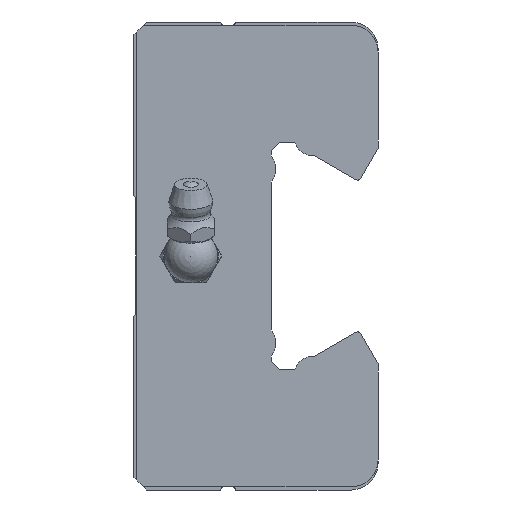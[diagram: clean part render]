
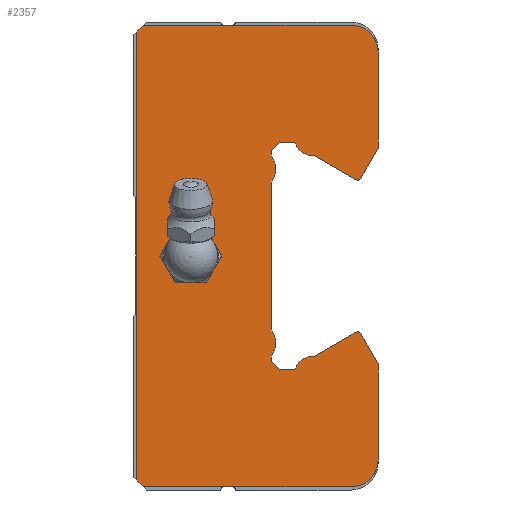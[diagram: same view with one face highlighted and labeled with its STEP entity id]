
A CAD part, left-side view. The second image highlights one B-rep face of the part: STEP entity #2357.
In plain terms, the highlighted planar face has unit normal (-1, 0, 0).
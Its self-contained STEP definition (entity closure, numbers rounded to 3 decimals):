
#120=LINE('',#3752,#326);
#134=LINE('',#3779,#340);
#137=LINE('',#3785,#343);
#143=LINE('',#3811,#349);
#184=LINE('',#3909,#390);
#189=LINE('',#3918,#395);
#191=LINE('',#3923,#397);
#200=LINE('',#3984,#406);
#201=LINE('',#3986,#407);
#202=LINE('',#3990,#408);
#203=LINE('',#3994,#409);
#204=LINE('',#3996,#410);
#205=LINE('',#3998,#411);
#206=LINE('',#4002,#412);
#207=LINE('',#4006,#413);
#208=LINE('',#4008,#414);
#209=LINE('',#4010,#415);
#210=LINE('',#4014,#416);
#326=VECTOR('',#2928,1000.);
#340=VECTOR('',#2948,1000.);
#343=VECTOR('',#2953,1000.);
#349=VECTOR('',#2981,1000.);
#390=VECTOR('',#3072,1000.);
#395=VECTOR('',#3081,1000.);
#397=VECTOR('',#3085,1000.);
#406=VECTOR('',#3164,1000.);
#407=VECTOR('',#3165,1000.);
#408=VECTOR('',#3168,1000.);
#409=VECTOR('',#3171,1000.);
#410=VECTOR('',#3172,1000.);
#411=VECTOR('',#3173,1000.);
#412=VECTOR('',#3176,1000.);
#413=VECTOR('',#3179,1000.);
#414=VECTOR('',#3180,1000.);
#415=VECTOR('',#3181,1000.);
#416=VECTOR('',#3184,1000.);
#509=PLANE('',#2596);
#609=CIRCLE('',#2527,4.);
#613=CIRCLE('',#2533,4.);
#638=CIRCLE('',#2597,3.);
#639=CIRCLE('',#2598,0.5);
#640=CIRCLE('',#2599,2.889);
#641=CIRCLE('',#2600,2.89);
#642=CIRCLE('',#2601,2.89);
#643=CIRCLE('',#2602,2.889);
#644=CIRCLE('',#2603,0.5);
#1094=ORIENTED_EDGE('',*,*,#1557,.T.);
#1095=ORIENTED_EDGE('',*,*,#1558,.T.);
#1096=ORIENTED_EDGE('',*,*,#1534,.F.);
#1097=ORIENTED_EDGE('',*,*,#1466,.F.);
#1098=ORIENTED_EDGE('',*,*,#1462,.F.);
#1099=ORIENTED_EDGE('',*,*,#1459,.F.);
#1100=ORIENTED_EDGE('',*,*,#1529,.F.);
#1101=ORIENTED_EDGE('',*,*,#1445,.F.);
#1102=ORIENTED_EDGE('',*,*,#1476,.F.);
#1103=ORIENTED_EDGE('',*,*,#1473,.F.);
#1104=ORIENTED_EDGE('',*,*,#1536,.F.);
#1105=ORIENTED_EDGE('',*,*,#1559,.T.);
#1106=ORIENTED_EDGE('',*,*,#1560,.F.);
#1107=ORIENTED_EDGE('',*,*,#1561,.T.);
#1108=ORIENTED_EDGE('',*,*,#1562,.F.);
#1109=ORIENTED_EDGE('',*,*,#1563,.T.);
#1110=ORIENTED_EDGE('',*,*,#1564,.T.);
#1111=ORIENTED_EDGE('',*,*,#1565,.T.);
#1112=ORIENTED_EDGE('',*,*,#1566,.F.);
#1113=ORIENTED_EDGE('',*,*,#1567,.T.);
#1114=ORIENTED_EDGE('',*,*,#1568,.F.);
#1115=ORIENTED_EDGE('',*,*,#1569,.T.);
#1116=ORIENTED_EDGE('',*,*,#1570,.T.);
#1117=ORIENTED_EDGE('',*,*,#1571,.T.);
#1118=ORIENTED_EDGE('',*,*,#1572,.F.);
#1119=ORIENTED_EDGE('',*,*,#1573,.T.);
#1120=ORIENTED_EDGE('',*,*,#1574,.F.);
#1445=EDGE_CURVE('',#1731,#1732,#120,.T.);
#1459=EDGE_CURVE('',#1741,#1742,#134,.T.);
#1462=EDGE_CURVE('',#1742,#1744,#137,.T.);
#1466=EDGE_CURVE('',#1744,#1746,#609,.T.);
#1473=EDGE_CURVE('',#1751,#1752,#613,.T.);
#1476=EDGE_CURVE('',#1752,#1731,#143,.T.);
#1529=EDGE_CURVE('',#1732,#1741,#184,.T.);
#1534=EDGE_CURVE('',#1746,#1786,#189,.T.);
#1536=EDGE_CURVE('',#1787,#1751,#191,.T.);
#1557=EDGE_CURVE('',#1805,#1805,#638,.T.);
#1558=EDGE_CURVE('',#1806,#1786,#200,.T.);
#1559=EDGE_CURVE('',#1787,#1807,#201,.T.);
#1560=EDGE_CURVE('',#1808,#1807,#639,.T.);
#1561=EDGE_CURVE('',#1808,#1809,#202,.T.);
#1562=EDGE_CURVE('',#1810,#1809,#640,.T.);
#1563=EDGE_CURVE('',#1810,#1811,#203,.T.);
#1564=EDGE_CURVE('',#1811,#1812,#204,.T.);
#1565=EDGE_CURVE('',#1812,#1813,#205,.T.);
#1566=EDGE_CURVE('',#1814,#1813,#641,.T.);
#1567=EDGE_CURVE('',#1814,#1815,#206,.T.);
#1568=EDGE_CURVE('',#1816,#1815,#642,.T.);
#1569=EDGE_CURVE('',#1816,#1817,#207,.T.);
#1570=EDGE_CURVE('',#1817,#1818,#208,.T.);
#1571=EDGE_CURVE('',#1818,#1819,#209,.T.);
#1572=EDGE_CURVE('',#1820,#1819,#643,.T.);
#1573=EDGE_CURVE('',#1820,#1821,#210,.T.);
#1574=EDGE_CURVE('',#1806,#1821,#644,.T.);
#1731=VERTEX_POINT('',#3751);
#1732=VERTEX_POINT('',#3753);
#1741=VERTEX_POINT('',#3778);
#1742=VERTEX_POINT('',#3780);
#1744=VERTEX_POINT('',#3786);
#1746=VERTEX_POINT('',#3793);
#1751=VERTEX_POINT('',#3805);
#1752=VERTEX_POINT('',#3807);
#1786=VERTEX_POINT('',#3915);
#1787=VERTEX_POINT('',#3921);
#1805=VERTEX_POINT('',#3983);
#1806=VERTEX_POINT('',#3985);
#1807=VERTEX_POINT('',#3987);
#1808=VERTEX_POINT('',#3989);
#1809=VERTEX_POINT('',#3991);
#1810=VERTEX_POINT('',#3993);
#1811=VERTEX_POINT('',#3995);
#1812=VERTEX_POINT('',#3997);
#1813=VERTEX_POINT('',#3999);
#1814=VERTEX_POINT('',#4001);
#1815=VERTEX_POINT('',#4003);
#1816=VERTEX_POINT('',#4005);
#1817=VERTEX_POINT('',#4007);
#1818=VERTEX_POINT('',#4009);
#1819=VERTEX_POINT('',#4011);
#1820=VERTEX_POINT('',#4013);
#1821=VERTEX_POINT('',#4015);
#1995=EDGE_LOOP('',(#1094));
#1996=EDGE_LOOP('',(#1095,#1096,#1097,#1098,#1099,#1100,#1101,#1102,#1103,
#1104,#1105,#1106,#1107,#1108,#1109,#1110,#1111,#1112,#1113,#1114,#1115,
#1116,#1117,#1118,#1119,#1120));
#2180=FACE_BOUND('',#1995,.T.);
#2181=FACE_BOUND('',#1996,.T.);
#2357=ADVANCED_FACE('',(#2180,#2181),#509,.F.);
#2527=AXIS2_PLACEMENT_3D('',#3792,#2961,#2962);
#2533=AXIS2_PLACEMENT_3D('',#3806,#2975,#2976);
#2596=AXIS2_PLACEMENT_3D('',#3981,#3160,#3161);
#2597=AXIS2_PLACEMENT_3D('',#3982,#3162,#3163);
#2598=AXIS2_PLACEMENT_3D('',#3988,#3166,#3167);
#2599=AXIS2_PLACEMENT_3D('',#3992,#3169,#3170);
#2600=AXIS2_PLACEMENT_3D('',#4000,#3174,#3175);
#2601=AXIS2_PLACEMENT_3D('',#4004,#3177,#3178);
#2602=AXIS2_PLACEMENT_3D('',#4012,#3182,#3183);
#2603=AXIS2_PLACEMENT_3D('',#4016,#3185,#3186);
#2928=DIRECTION('',(0.,0.707,0.707));
#2948=DIRECTION('',(0.,-0.707,0.707));
#2953=DIRECTION('',(0.,-1.,0.));
#2961=DIRECTION('',(1.,0.,0.));
#2962=DIRECTION('',(0.,0.,-1.));
#2975=DIRECTION('',(1.,0.,0.));
#2976=DIRECTION('',(0.,0.,-1.));
#2981=DIRECTION('',(0.,1.,0.));
#3072=DIRECTION('',(0.,0.,1.));
#3081=DIRECTION('',(0.,0.,-1.));
#3085=DIRECTION('',(0.,0.,-1.));
#3160=DIRECTION('',(1.,0.,0.));
#3161=DIRECTION('',(0.,0.,-1.));
#3162=DIRECTION('',(1.,0.,0.));
#3163=DIRECTION('',(0.,0.,-1.));
#3164=DIRECTION('',(0.,-0.5,0.866));
#3165=DIRECTION('',(0.,0.5,0.866));
#3166=DIRECTION('',(1.,0.,0.));
#3167=DIRECTION('',(0.,0.,-1.));
#3168=DIRECTION('',(0.,0.867,-0.499));
#3169=DIRECTION('',(1.,0.,0.));
#3170=DIRECTION('',(0.,0.,-1.));
#3171=DIRECTION('',(0.,1.,0.));
#3172=DIRECTION('',(0.,0.707,0.707));
#3173=DIRECTION('',(0.,0.,1.));
#3174=DIRECTION('',(1.,0.,0.));
#3175=DIRECTION('',(0.,0.,-1.));
#3176=DIRECTION('',(0.,0.,1.));
#3177=DIRECTION('',(1.,0.,0.));
#3178=DIRECTION('',(0.,0.,-1.));
#3179=DIRECTION('',(0.,0.,1.));
#3180=DIRECTION('',(0.,-0.707,0.707));
#3181=DIRECTION('',(0.,-1.,0.));
#3182=DIRECTION('',(1.,0.,0.));
#3183=DIRECTION('',(0.,0.,-1.));
#3184=DIRECTION('',(0.,-0.867,-0.499));
#3185=DIRECTION('',(1.,0.,0.));
#3186=DIRECTION('',(0.,0.,-1.));
#3751=CARTESIAN_POINT('',(-55.45,35.09,-34.5));
#3752=CARTESIAN_POINT('',(-55.45,35.09,-34.5));
#3753=CARTESIAN_POINT('',(-55.45,36.09,-33.5));
#3778=CARTESIAN_POINT('',(-55.45,36.09,33.5));
#3779=CARTESIAN_POINT('',(-55.45,36.09,33.5));
#3780=CARTESIAN_POINT('',(-55.45,35.09,34.5));
#3785=CARTESIAN_POINT('',(-55.45,35.09,34.5));
#3786=CARTESIAN_POINT('',(-55.45,4.,34.5));
#3792=CARTESIAN_POINT('',(-55.45,4.,30.5));
#3793=CARTESIAN_POINT('',(-55.45,0.,30.5));
#3805=CARTESIAN_POINT('',(-55.45,0.,-30.5));
#3806=CARTESIAN_POINT('',(-55.45,4.,-30.5));
#3807=CARTESIAN_POINT('',(-55.45,4.,-34.5));
#3811=CARTESIAN_POINT('',(-55.45,4.,-34.5));
#3909=CARTESIAN_POINT('',(-55.45,36.09,-33.5));
#3915=CARTESIAN_POINT('',(-55.45,0.,16.142));
#3918=CARTESIAN_POINT('',(-55.45,0.,30.5));
#3921=CARTESIAN_POINT('',(-55.45,0.,-16.142));
#3923=CARTESIAN_POINT('',(-55.45,0.,30.5));
#3981=CARTESIAN_POINT('',(-55.45,4.,30.5));
#3982=CARTESIAN_POINT('',(-55.45,28.,0.));
#3983=CARTESIAN_POINT('',(-55.45,28.,-3.));
#3984=CARTESIAN_POINT('',(-55.45,2.616,11.609));
#3985=CARTESIAN_POINT('',(-55.45,2.616,11.609));
#3986=CARTESIAN_POINT('',(-55.45,-0.784,-17.5));
#3987=CARTESIAN_POINT('',(-55.45,2.616,-11.609));
#3988=CARTESIAN_POINT('',(-55.45,3.049,-11.859));
#3989=CARTESIAN_POINT('',(-55.45,3.299,-11.426));
#3990=CARTESIAN_POINT('',(-55.45,3.299,-11.426));
#3991=CARTESIAN_POINT('',(-55.45,9.52,-15.006));
#3992=CARTESIAN_POINT('',(-55.45,9.69,-17.89));
#3993=CARTESIAN_POINT('',(-55.45,12.438,-17.));
#3994=CARTESIAN_POINT('',(-55.45,12.438,-17.));
#3995=CARTESIAN_POINT('',(-55.45,14.799,-17.));
#3996=CARTESIAN_POINT('',(-55.45,14.799,-17.));
#3997=CARTESIAN_POINT('',(-55.45,16.,-15.799));
#3998=CARTESIAN_POINT('',(-55.45,16.,-15.799));
#3999=CARTESIAN_POINT('',(-55.45,16.,-14.952));
#4000=CARTESIAN_POINT('',(-55.45,18.14,-13.01));
#4001=CARTESIAN_POINT('',(-55.45,16.,-11.068));
#4002=CARTESIAN_POINT('',(-55.45,16.,-11.068));
#4003=CARTESIAN_POINT('',(-55.45,16.,11.068));
#4004=CARTESIAN_POINT('',(-55.45,18.14,13.01));
#4005=CARTESIAN_POINT('',(-55.45,16.,14.952));
#4006=CARTESIAN_POINT('',(-55.45,16.,14.952));
#4007=CARTESIAN_POINT('',(-55.45,16.,15.799));
#4008=CARTESIAN_POINT('',(-55.45,16.,15.799));
#4009=CARTESIAN_POINT('',(-55.45,14.799,17.));
#4010=CARTESIAN_POINT('',(-55.45,14.799,17.));
#4011=CARTESIAN_POINT('',(-55.45,12.438,17.));
#4012=CARTESIAN_POINT('',(-55.45,9.69,17.89));
#4013=CARTESIAN_POINT('',(-55.45,9.52,15.006));
#4014=CARTESIAN_POINT('',(-55.45,9.52,15.006));
#4015=CARTESIAN_POINT('',(-55.45,3.299,11.426));
#4016=CARTESIAN_POINT('',(-55.45,3.049,11.859));
